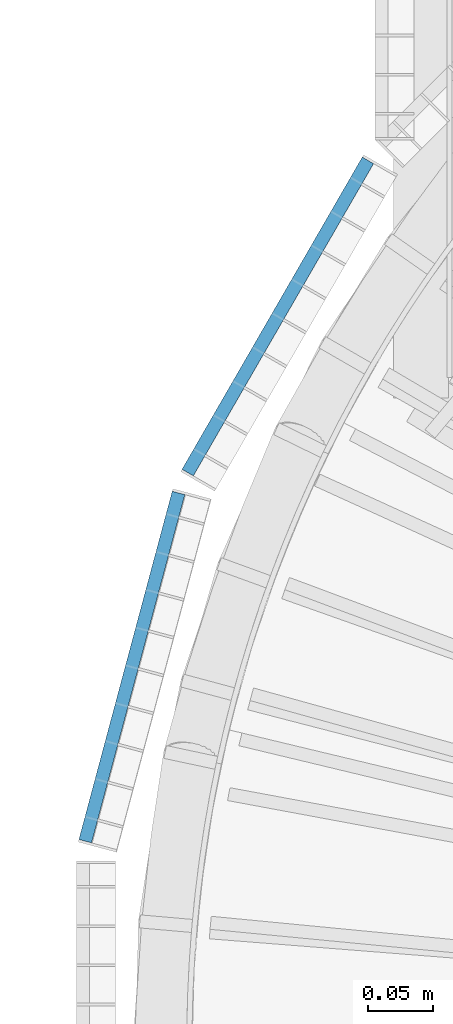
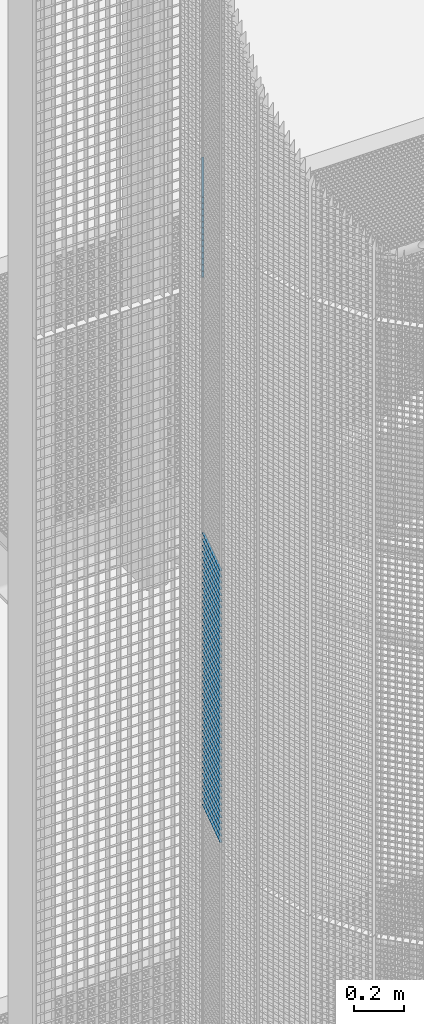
# One storey, part 197 of 1183: 59 beams, 2 elements without a shape of their own.
"""IFC2X3 building model written with IfcOpenShell, lengths in millimetres."""

from ifc_helpers import new_model, si_unit, frame, origin_with_axes, origin_2d_with_axis, place, context, subcontext, project, spatial, rectangle, extrude, material, type_object, element, aggregate, save


model = new_model("IFC2X3")

# Units and contexts
model_context = context("Model", 3, precision=1e-05, world=origin_with_axes())
body_context = subcontext(model_context, "Body", "Model", "MODEL_VIEW")
ifc_project = project(units=[si_unit("LENGTHUNIT", "METRE", prefix="MILLI"), si_unit("AREAUNIT", "SQUARE_METRE"), si_unit("VOLUMEUNIT", "CUBIC_METRE"), si_unit("MASSUNIT", "GRAM", prefix="KILO"), si_unit("TIMEUNIT", "SECOND"), si_unit("PLANEANGLEUNIT", "RADIAN"), si_unit("SOLIDANGLEUNIT", "STERADIAN"), si_unit("THERMODYNAMICTEMPERATUREUNIT", "DEGREE_CELSIUS"), si_unit("LUMINOUSINTENSITYUNIT", "LUMEN")], contexts=[model_context])

# Site, building, storey
site_placement = place(None, origin_with_axes())
site = spatial("IfcSite", under=ifc_project, at=site_placement, Name="Undefined", CompositionType="ELEMENT")
building_placement = place(site_placement, origin_with_axes())
building = spatial("IfcBuilding", under=site, at=building_placement, Name="Undefined", CompositionType="ELEMENT")
storey_placement = place(building_placement, origin_with_axes())
storey = spatial("IfcBuildingStorey", under=building, at=storey_placement, Name="Undefined", CompositionType="ELEMENT", Elevation=0.0)

# Assembly, beams
assembly_1_placement = place(storey_placement, origin_with_axes())
assembly_1 = element("IfcElementAssembly", 1, at=assembly_1_placement, inside=storey, Name="BORDURE", AssemblyPlace="NOTDEFINED", PredefinedType="NOTDEFINED")
ifc_material = material(Name="STEEL/S235JR")
beam_type = type_object("IfcBeamType", Name="PL2*10", PredefinedType="NOTDEFINED")
beam_1_placement = place(assembly_1_placement, frame((-1040.30888419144, 421.618038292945, 10350.0), z_axis=(-0.965925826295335, 0.258819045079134, 0.0), x_axis=(-0.258819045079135, -0.965925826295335, 0.0)))
beam_1 = element("IfcBeam", 2, at=beam_1_placement, type_object=beam_type, material=ifc_material, Name="ENTRETOISE", context=body_context, shape_type="SweptSolid", body=[
    extrude(rectangle(XDim=2.0, YDim=10.0, at=origin_2d_with_axis()), frame((275.999999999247, 9.09494701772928e-13, 1.53210777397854e-14), z_axis=(-1.0, 0.0, 0.0), x_axis=(0.0, -1.0, 0.0)), (0.0, 0.0, 1.0), 276.0),
])
beam_2_placement = place(assembly_1_placement, frame((-1040.30888419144, 421.618038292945, 10320.0), z_axis=(-0.965925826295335, 0.258819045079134, 0.0), x_axis=(-0.258819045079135, -0.965925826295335, 0.0)))
beam_2 = element("IfcBeam", 3, at=beam_2_placement, type_object=beam_type, material=ifc_material, Name="ENTRETOISE", context=body_context, shape_type="SweptSolid", body=[
    extrude(rectangle(XDim=2.0, YDim=10.0, at=origin_2d_with_axis()), frame((275.999999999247, 9.09494701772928e-13, 1.53210777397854e-14), z_axis=(-1.0, 0.0, 0.0), x_axis=(0.0, -1.0, 0.0)), (0.0, 0.0, 1.0), 276.0),
])
beam_3_placement = place(assembly_1_placement, frame((-1040.30888419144, 421.618038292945, 10290.0), z_axis=(-0.965925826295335, 0.258819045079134, 0.0), x_axis=(-0.258819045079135, -0.965925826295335, 0.0)))
beam_3 = element("IfcBeam", 4, at=beam_3_placement, type_object=beam_type, material=ifc_material, Name="ENTRETOISE", context=body_context, shape_type="SweptSolid", body=[
    extrude(rectangle(XDim=2.0, YDim=10.0, at=origin_2d_with_axis()), frame((275.999999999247, 9.09494701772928e-13, 1.53210777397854e-14), z_axis=(-1.0, 0.0, 0.0), x_axis=(0.0, -1.0, 0.0)), (0.0, 0.0, 1.0), 276.0),
])
beam_4_placement = place(assembly_1_placement, frame((-1040.30888419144, 421.618038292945, 10260.0), z_axis=(-0.965925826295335, 0.258819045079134, 0.0), x_axis=(-0.258819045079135, -0.965925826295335, 0.0)))
beam_4 = element("IfcBeam", 5, at=beam_4_placement, type_object=beam_type, material=ifc_material, Name="ENTRETOISE", context=body_context, shape_type="SweptSolid", body=[
    extrude(rectangle(XDim=2.0, YDim=10.0, at=origin_2d_with_axis()), frame((275.999999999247, 9.09494701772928e-13, 1.53210777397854e-14), z_axis=(-1.0, 0.0, 0.0), x_axis=(0.0, -1.0, 0.0)), (0.0, 0.0, 1.0), 276.0),
])
beam_5_placement = place(assembly_1_placement, frame((-1040.30888419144, 421.618038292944, 10230.0), z_axis=(-0.965925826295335, 0.258819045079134, 0.0), x_axis=(-0.258819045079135, -0.965925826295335, 0.0)))
beam_5 = element("IfcBeam", 6, at=beam_5_placement, type_object=beam_type, material=ifc_material, Name="ENTRETOISE", context=body_context, shape_type="SweptSolid", body=[
    extrude(rectangle(XDim=2.0, YDim=10.0, at=origin_2d_with_axis()), frame((275.999999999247, 9.09494701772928e-13, 1.53210777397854e-14), z_axis=(-1.0, 0.0, 0.0), x_axis=(0.0, -1.0, 0.0)), (0.0, 0.0, 1.0), 276.0),
])
beam_6_placement = place(assembly_1_placement, frame((-1040.30888419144, 421.618038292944, 10200.0), z_axis=(-0.965925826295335, 0.258819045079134, 0.0), x_axis=(-0.258819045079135, -0.965925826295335, 0.0)))
beam_6 = element("IfcBeam", 7, at=beam_6_placement, type_object=beam_type, material=ifc_material, Name="ENTRETOISE", context=body_context, shape_type="SweptSolid", body=[
    extrude(rectangle(XDim=2.0, YDim=10.0, at=origin_2d_with_axis()), frame((275.999999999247, 9.09494701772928e-13, 1.53210777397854e-14), z_axis=(-1.0, 0.0, 0.0), x_axis=(0.0, -1.0, 0.0)), (0.0, 0.0, 1.0), 276.0),
])
beam_7_placement = place(assembly_1_placement, frame((-1040.30888419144, 421.618038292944, 10170.0), z_axis=(-0.965925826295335, 0.258819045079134, 0.0), x_axis=(-0.258819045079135, -0.965925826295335, 0.0)))
beam_7 = element("IfcBeam", 8, at=beam_7_placement, type_object=beam_type, material=ifc_material, Name="ENTRETOISE", context=body_context, shape_type="SweptSolid", body=[
    extrude(rectangle(XDim=2.0, YDim=10.0, at=origin_2d_with_axis()), frame((275.999999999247, 9.09494701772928e-13, 1.53210777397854e-14), z_axis=(-1.0, 0.0, 0.0), x_axis=(0.0, -1.0, 0.0)), (0.0, 0.0, 1.0), 276.0),
])
beam_8_placement = place(assembly_1_placement, frame((-1040.30888419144, 421.618038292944, 10140.0), z_axis=(-0.965925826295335, 0.258819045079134, 0.0), x_axis=(-0.258819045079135, -0.965925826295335, 0.0)))
beam_8 = element("IfcBeam", 9, at=beam_8_placement, type_object=beam_type, material=ifc_material, Name="ENTRETOISE", context=body_context, shape_type="SweptSolid", body=[
    extrude(rectangle(XDim=2.0, YDim=10.0, at=origin_2d_with_axis()), frame((275.999999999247, 9.09494701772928e-13, 1.53210777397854e-14), z_axis=(-1.0, 0.0, 0.0), x_axis=(0.0, -1.0, 0.0)), (0.0, 0.0, 1.0), 276.0),
])
beam_9_placement = place(assembly_1_placement, frame((-1040.30888419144, 421.618038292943, 9720.0), z_axis=(-0.965925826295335, 0.258819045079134, 0.0), x_axis=(-0.258819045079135, -0.965925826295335, 0.0)))
beam_9 = element("IfcBeam", 10, at=beam_9_placement, type_object=beam_type, material=ifc_material, Name="ENTRETOISE", context=body_context, shape_type="SweptSolid", body=[
    extrude(rectangle(XDim=2.0, YDim=10.0, at=origin_2d_with_axis()), frame((275.999999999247, 9.09494701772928e-13, 1.53210777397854e-14), z_axis=(-1.0, 0.0, 0.0), x_axis=(0.0, -1.0, 0.0)), (0.0, 0.0, 1.0), 276.0),
])
beam_10_placement = place(assembly_1_placement, frame((-1040.30888419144, 421.618038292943, 9690.0), z_axis=(-0.965925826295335, 0.258819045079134, 0.0), x_axis=(-0.258819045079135, -0.965925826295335, 0.0)))
beam_10 = element("IfcBeam", 11, at=beam_10_placement, type_object=beam_type, material=ifc_material, Name="ENTRETOISE", context=body_context, shape_type="SweptSolid", body=[
    extrude(rectangle(XDim=2.0, YDim=10.0, at=origin_2d_with_axis()), frame((275.999999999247, 9.09494701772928e-13, 1.53210777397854e-14), z_axis=(-1.0, 0.0, 0.0), x_axis=(0.0, -1.0, 0.0)), (0.0, 0.0, 1.0), 276.0),
])
beam_11_placement = place(assembly_1_placement, frame((-1040.30888419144, 421.618038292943, 9750.0), z_axis=(-0.965925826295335, 0.258819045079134, 0.0), x_axis=(-0.258819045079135, -0.965925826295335, 0.0)))
beam_11 = element("IfcBeam", 12, at=beam_11_placement, type_object=beam_type, material=ifc_material, Name="ENTRETOISE", context=body_context, shape_type="SweptSolid", body=[
    extrude(rectangle(XDim=2.0, YDim=10.0, at=origin_2d_with_axis()), frame((275.999999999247, 9.09494701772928e-13, 1.53210777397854e-14), z_axis=(-1.0, 0.0, 0.0), x_axis=(0.0, -1.0, 0.0)), (0.0, 0.0, 1.0), 276.0),
])
beam_12_placement = place(assembly_1_placement, frame((-1040.30888419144, 421.618038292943, 9660.0), z_axis=(-0.965925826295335, 0.258819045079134, 0.0), x_axis=(-0.258819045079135, -0.965925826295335, 0.0)))
beam_12 = element("IfcBeam", 13, at=beam_12_placement, type_object=beam_type, material=ifc_material, Name="ENTRETOISE", context=body_context, shape_type="SweptSolid", body=[
    extrude(rectangle(XDim=2.0, YDim=10.0, at=origin_2d_with_axis()), frame((275.999999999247, 9.09494701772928e-13, 1.53210777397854e-14), z_axis=(-1.0, 0.0, 0.0), x_axis=(0.0, -1.0, 0.0)), (0.0, 0.0, 1.0), 276.0),
])
beam_13_placement = place(assembly_1_placement, frame((-1040.30888419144, 421.618038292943, 9630.0), z_axis=(-0.965925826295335, 0.258819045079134, 0.0), x_axis=(-0.258819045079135, -0.965925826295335, 0.0)))
beam_13 = element("IfcBeam", 14, at=beam_13_placement, type_object=beam_type, material=ifc_material, Name="ENTRETOISE", context=body_context, shape_type="SweptSolid", body=[
    extrude(rectangle(XDim=2.0, YDim=10.0, at=origin_2d_with_axis()), frame((275.999999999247, 9.09494701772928e-13, 1.53210777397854e-14), z_axis=(-1.0, 0.0, 0.0), x_axis=(0.0, -1.0, 0.0)), (0.0, 0.0, 1.0), 276.0),
])
beam_14_placement = place(assembly_1_placement, frame((-1040.30888419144, 421.618038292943, 9780.0), z_axis=(-0.965925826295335, 0.258819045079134, 0.0), x_axis=(-0.258819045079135, -0.965925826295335, 0.0)))
beam_14 = element("IfcBeam", 15, at=beam_14_placement, type_object=beam_type, material=ifc_material, Name="ENTRETOISE", context=body_context, shape_type="SweptSolid", body=[
    extrude(rectangle(XDim=2.0, YDim=10.0, at=origin_2d_with_axis()), frame((275.999999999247, 9.09494701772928e-13, 1.53210777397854e-14), z_axis=(-1.0, 0.0, 0.0), x_axis=(0.0, -1.0, 0.0)), (0.0, 0.0, 1.0), 276.0),
])
beam_15_placement = place(assembly_1_placement, frame((-1040.30888419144, 421.618038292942, 9600.0), z_axis=(-0.965925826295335, 0.258819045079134, 0.0), x_axis=(-0.258819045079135, -0.965925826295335, 0.0)))
beam_15 = element("IfcBeam", 16, at=beam_15_placement, type_object=beam_type, material=ifc_material, Name="ENTRETOISE", context=body_context, shape_type="SweptSolid", body=[
    extrude(rectangle(XDim=2.0, YDim=10.0, at=origin_2d_with_axis()), frame((275.999999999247, 9.09494701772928e-13, 1.53210777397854e-14), z_axis=(-1.0, 0.0, 0.0), x_axis=(0.0, -1.0, 0.0)), (0.0, 0.0, 1.0), 276.0),
])
beam_16_placement = place(assembly_1_placement, frame((-1040.30888419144, 421.618038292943, 9810.0), z_axis=(-0.965925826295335, 0.258819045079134, 0.0), x_axis=(-0.258819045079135, -0.965925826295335, 0.0)))
beam_16 = element("IfcBeam", 17, at=beam_16_placement, type_object=beam_type, material=ifc_material, Name="ENTRETOISE", context=body_context, shape_type="SweptSolid", body=[
    extrude(rectangle(XDim=2.0, YDim=10.0, at=origin_2d_with_axis()), frame((275.999999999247, 9.09494701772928e-13, 1.53210777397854e-14), z_axis=(-1.0, 0.0, 0.0), x_axis=(0.0, -1.0, 0.0)), (0.0, 0.0, 1.0), 276.0),
])
beam_17_placement = place(assembly_1_placement, frame((-1040.30888419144, 421.618038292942, 9570.0), z_axis=(-0.965925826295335, 0.258819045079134, 0.0), x_axis=(-0.258819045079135, -0.965925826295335, 0.0)))
beam_17 = element("IfcBeam", 18, at=beam_17_placement, type_object=beam_type, material=ifc_material, Name="ENTRETOISE", context=body_context, shape_type="SweptSolid", body=[
    extrude(rectangle(XDim=2.0, YDim=10.0, at=origin_2d_with_axis()), frame((275.999999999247, 9.09494701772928e-13, 1.53210777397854e-14), z_axis=(-1.0, 0.0, 0.0), x_axis=(0.0, -1.0, 0.0)), (0.0, 0.0, 1.0), 276.0),
])
beam_18_placement = place(assembly_1_placement, frame((-1040.30888419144, 421.618038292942, 9540.0), z_axis=(-0.965925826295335, 0.258819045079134, 0.0), x_axis=(-0.258819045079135, -0.965925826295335, 0.0)))
beam_18 = element("IfcBeam", 19, at=beam_18_placement, type_object=beam_type, material=ifc_material, Name="ENTRETOISE", context=body_context, shape_type="SweptSolid", body=[
    extrude(rectangle(XDim=2.0, YDim=10.0, at=origin_2d_with_axis()), frame((275.999999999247, 9.09494701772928e-13, 1.53210777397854e-14), z_axis=(-1.0, 0.0, 0.0), x_axis=(0.0, -1.0, 0.0)), (0.0, 0.0, 1.0), 276.0),
])
beam_19_placement = place(assembly_1_placement, frame((-1040.30888419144, 421.618038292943, 9840.0), z_axis=(-0.965925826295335, 0.258819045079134, 0.0), x_axis=(-0.258819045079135, -0.965925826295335, 0.0)))
beam_19 = element("IfcBeam", 20, at=beam_19_placement, type_object=beam_type, material=ifc_material, Name="ENTRETOISE", context=body_context, shape_type="SweptSolid", body=[
    extrude(rectangle(XDim=2.0, YDim=10.0, at=origin_2d_with_axis()), frame((275.999999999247, 9.09494701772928e-13, 1.53210777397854e-14), z_axis=(-1.0, 0.0, 0.0), x_axis=(0.0, -1.0, 0.0)), (0.0, 0.0, 1.0), 276.0),
])
beam_20_placement = place(assembly_1_placement, frame((-1040.30888419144, 421.618038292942, 9510.0), z_axis=(-0.965925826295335, 0.258819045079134, 0.0), x_axis=(-0.258819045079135, -0.965925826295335, 0.0)))
beam_20 = element("IfcBeam", 21, at=beam_20_placement, type_object=beam_type, material=ifc_material, Name="ENTRETOISE", context=body_context, shape_type="SweptSolid", body=[
    extrude(rectangle(XDim=2.0, YDim=10.0, at=origin_2d_with_axis()), frame((275.999999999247, 9.09494701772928e-13, 1.53210777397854e-14), z_axis=(-1.0, 0.0, 0.0), x_axis=(0.0, -1.0, 0.0)), (0.0, 0.0, 1.0), 276.0),
])
beam_21_placement = place(assembly_1_placement, frame((-1040.30888419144, 421.618038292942, 9480.0), z_axis=(-0.965925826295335, 0.258819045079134, 0.0), x_axis=(-0.258819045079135, -0.965925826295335, 0.0)))
beam_21 = element("IfcBeam", 22, at=beam_21_placement, type_object=beam_type, material=ifc_material, Name="ENTRETOISE", context=body_context, shape_type="SweptSolid", body=[
    extrude(rectangle(XDim=2.0, YDim=10.0, at=origin_2d_with_axis()), frame((275.999999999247, 9.09494701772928e-13, 1.53210777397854e-14), z_axis=(-1.0, 0.0, 0.0), x_axis=(0.0, -1.0, 0.0)), (0.0, 0.0, 1.0), 276.0),
])
beam_22_placement = place(assembly_1_placement, frame((-1040.30888419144, 421.618038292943, 9870.0), z_axis=(-0.965925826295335, 0.258819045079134, 0.0), x_axis=(-0.258819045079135, -0.965925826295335, 0.0)))
beam_22 = element("IfcBeam", 23, at=beam_22_placement, type_object=beam_type, material=ifc_material, Name="ENTRETOISE", context=body_context, shape_type="SweptSolid", body=[
    extrude(rectangle(XDim=2.0, YDim=10.0, at=origin_2d_with_axis()), frame((275.999999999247, 9.09494701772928e-13, 1.53210777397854e-14), z_axis=(-1.0, 0.0, 0.0), x_axis=(0.0, -1.0, 0.0)), (0.0, 0.0, 1.0), 276.0),
])
beam_23_placement = place(assembly_1_placement, frame((-1040.30888419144, 421.618038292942, 9450.0), z_axis=(-0.965925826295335, 0.258819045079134, 0.0), x_axis=(-0.258819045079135, -0.965925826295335, 0.0)))
beam_23 = element("IfcBeam", 24, at=beam_23_placement, type_object=beam_type, material=ifc_material, Name="ENTRETOISE", context=body_context, shape_type="SweptSolid", body=[
    extrude(rectangle(XDim=2.0, YDim=10.0, at=origin_2d_with_axis()), frame((275.999999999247, 9.09494701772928e-13, 1.53210777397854e-14), z_axis=(-1.0, 0.0, 0.0), x_axis=(0.0, -1.0, 0.0)), (0.0, 0.0, 1.0), 276.0),
])
beam_24_placement = place(assembly_1_placement, frame((-1040.30888419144, 421.618038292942, 9420.0), z_axis=(-0.965925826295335, 0.258819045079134, 0.0), x_axis=(-0.258819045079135, -0.965925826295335, 0.0)))
beam_24 = element("IfcBeam", 25, at=beam_24_placement, type_object=beam_type, material=ifc_material, Name="ENTRETOISE", context=body_context, shape_type="SweptSolid", body=[
    extrude(rectangle(XDim=2.0, YDim=10.0, at=origin_2d_with_axis()), frame((275.999999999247, 9.09494701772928e-13, 1.53210777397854e-14), z_axis=(-1.0, 0.0, 0.0), x_axis=(0.0, -1.0, 0.0)), (0.0, 0.0, 1.0), 276.0),
])
beam_25_placement = place(assembly_1_placement, frame((-1040.30888419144, 421.618038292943, 9900.0), z_axis=(-0.965925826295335, 0.258819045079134, 0.0), x_axis=(-0.258819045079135, -0.965925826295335, 0.0)))
beam_25 = element("IfcBeam", 26, at=beam_25_placement, type_object=beam_type, material=ifc_material, Name="ENTRETOISE", context=body_context, shape_type="SweptSolid", body=[
    extrude(rectangle(XDim=2.0, YDim=10.0, at=origin_2d_with_axis()), frame((275.999999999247, 9.09494701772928e-13, 1.53210777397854e-14), z_axis=(-1.0, 0.0, 0.0), x_axis=(0.0, -1.0, 0.0)), (0.0, 0.0, 1.0), 276.0),
])
beam_26_placement = place(assembly_1_placement, frame((-1040.30888419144, 421.618038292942, 9390.0), z_axis=(-0.965925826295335, 0.258819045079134, 0.0), x_axis=(-0.258819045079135, -0.965925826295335, 0.0)))
beam_26 = element("IfcBeam", 27, at=beam_26_placement, type_object=beam_type, material=ifc_material, Name="ENTRETOISE", context=body_context, shape_type="SweptSolid", body=[
    extrude(rectangle(XDim=2.0, YDim=10.0, at=origin_2d_with_axis()), frame((275.999999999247, 9.09494701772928e-13, 1.53210777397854e-14), z_axis=(-1.0, 0.0, 0.0), x_axis=(0.0, -1.0, 0.0)), (0.0, 0.0, 1.0), 276.0),
])
beam_27_placement = place(assembly_1_placement, frame((-1040.30888419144, 421.618038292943, 9930.0), z_axis=(-0.965925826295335, 0.258819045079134, 0.0), x_axis=(-0.258819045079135, -0.965925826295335, 0.0)))
beam_27 = element("IfcBeam", 28, at=beam_27_placement, type_object=beam_type, material=ifc_material, Name="ENTRETOISE", context=body_context, shape_type="SweptSolid", body=[
    extrude(rectangle(XDim=2.0, YDim=10.0, at=origin_2d_with_axis()), frame((275.999999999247, 9.09494701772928e-13, 1.53210777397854e-14), z_axis=(-1.0, 0.0, 0.0), x_axis=(0.0, -1.0, 0.0)), (0.0, 0.0, 1.0), 276.0),
])
beam_28_placement = place(assembly_1_placement, frame((-1040.30888419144, 421.618038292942, 9360.0), z_axis=(-0.965925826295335, 0.258819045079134, 0.0), x_axis=(-0.258819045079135, -0.965925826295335, 0.0)))
beam_28 = element("IfcBeam", 29, at=beam_28_placement, type_object=beam_type, material=ifc_material, Name="ENTRETOISE", context=body_context, shape_type="SweptSolid", body=[
    extrude(rectangle(XDim=2.0, YDim=10.0, at=origin_2d_with_axis()), frame((275.999999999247, 9.09494701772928e-13, 1.53210777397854e-14), z_axis=(-1.0, 0.0, 0.0), x_axis=(0.0, -1.0, 0.0)), (0.0, 0.0, 1.0), 276.0),
])
beam_29_placement = place(assembly_1_placement, frame((-1040.30888419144, 421.618038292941, 9330.0), z_axis=(-0.965925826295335, 0.258819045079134, 0.0), x_axis=(-0.258819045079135, -0.965925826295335, 0.0)))
beam_29 = element("IfcBeam", 30, at=beam_29_placement, type_object=beam_type, material=ifc_material, Name="ENTRETOISE", context=body_context, shape_type="SweptSolid", body=[
    extrude(rectangle(XDim=2.0, YDim=10.0, at=origin_2d_with_axis()), frame((275.999999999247, 9.09494701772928e-13, 1.53210777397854e-14), z_axis=(-1.0, 0.0, 0.0), x_axis=(0.0, -1.0, 0.0)), (0.0, 0.0, 1.0), 276.0),
])
beam_30_placement = place(assembly_1_placement, frame((-1040.30888419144, 421.618038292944, 9960.0), z_axis=(-0.965925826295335, 0.258819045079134, 0.0), x_axis=(-0.258819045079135, -0.965925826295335, 0.0)))
beam_30 = element("IfcBeam", 31, at=beam_30_placement, type_object=beam_type, material=ifc_material, Name="ENTRETOISE", context=body_context, shape_type="SweptSolid", body=[
    extrude(rectangle(XDim=2.0, YDim=10.0, at=origin_2d_with_axis()), frame((275.999999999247, 9.09494701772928e-13, 1.53210777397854e-14), z_axis=(-1.0, 0.0, 0.0), x_axis=(0.0, -1.0, 0.0)), (0.0, 0.0, 1.0), 276.0),
])
beam_31_placement = place(assembly_1_placement, frame((-1040.30888419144, 421.618038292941, 9300.0), z_axis=(-0.965925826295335, 0.258819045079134, 0.0), x_axis=(-0.258819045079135, -0.965925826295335, 0.0)))
beam_31 = element("IfcBeam", 32, at=beam_31_placement, type_object=beam_type, material=ifc_material, Name="ENTRETOISE", context=body_context, shape_type="SweptSolid", body=[
    extrude(rectangle(XDim=2.0, YDim=10.0, at=origin_2d_with_axis()), frame((275.999999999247, 9.09494701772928e-13, 1.53210777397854e-14), z_axis=(-1.0, 0.0, 0.0), x_axis=(0.0, -1.0, 0.0)), (0.0, 0.0, 1.0), 276.0),
])
beam_32_placement = place(assembly_1_placement, frame((-1040.30888419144, 421.618038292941, 9270.0), z_axis=(-0.965925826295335, 0.258819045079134, 0.0), x_axis=(-0.258819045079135, -0.965925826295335, 0.0)))
beam_32 = element("IfcBeam", 33, at=beam_32_placement, type_object=beam_type, material=ifc_material, Name="ENTRETOISE", context=body_context, shape_type="SweptSolid", body=[
    extrude(rectangle(XDim=2.0, YDim=10.0, at=origin_2d_with_axis()), frame((275.999999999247, 9.09494701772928e-13, 1.53210777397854e-14), z_axis=(-1.0, 0.0, 0.0), x_axis=(0.0, -1.0, 0.0)), (0.0, 0.0, 1.0), 276.0),
])
beam_33_placement = place(assembly_1_placement, frame((-1040.30888419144, 421.618038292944, 9990.0), z_axis=(-0.965925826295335, 0.258819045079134, 0.0), x_axis=(-0.258819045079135, -0.965925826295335, 0.0)))
beam_33 = element("IfcBeam", 34, at=beam_33_placement, type_object=beam_type, material=ifc_material, Name="ENTRETOISE", context=body_context, shape_type="SweptSolid", body=[
    extrude(rectangle(XDim=2.0, YDim=10.0, at=origin_2d_with_axis()), frame((275.999999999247, 9.09494701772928e-13, 1.53210777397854e-14), z_axis=(-1.0, 0.0, 0.0), x_axis=(0.0, -1.0, 0.0)), (0.0, 0.0, 1.0), 276.0),
])
beam_34_placement = place(assembly_1_placement, frame((-1040.30888419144, 421.618038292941, 9240.0), z_axis=(-0.965925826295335, 0.258819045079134, 0.0), x_axis=(-0.258819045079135, -0.965925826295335, 0.0)))
beam_34 = element("IfcBeam", 35, at=beam_34_placement, type_object=beam_type, material=ifc_material, Name="ENTRETOISE", context=body_context, shape_type="SweptSolid", body=[
    extrude(rectangle(XDim=2.0, YDim=10.0, at=origin_2d_with_axis()), frame((275.999999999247, 9.09494701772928e-13, 1.53210777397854e-14), z_axis=(-1.0, 0.0, 0.0), x_axis=(0.0, -1.0, 0.0)), (0.0, 0.0, 1.0), 276.0),
])
beam_35_placement = place(assembly_1_placement, frame((-1040.30888419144, 421.618038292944, 10020.0), z_axis=(-0.965925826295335, 0.258819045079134, 0.0), x_axis=(-0.258819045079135, -0.965925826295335, 0.0)))
beam_35 = element("IfcBeam", 36, at=beam_35_placement, type_object=beam_type, material=ifc_material, Name="ENTRETOISE", context=body_context, shape_type="SweptSolid", body=[
    extrude(rectangle(XDim=2.0, YDim=10.0, at=origin_2d_with_axis()), frame((275.999999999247, 9.09494701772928e-13, 1.53210777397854e-14), z_axis=(-1.0, 0.0, 0.0), x_axis=(0.0, -1.0, 0.0)), (0.0, 0.0, 1.0), 276.0),
])
beam_36_placement = place(assembly_1_placement, frame((-1040.30888419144, 421.618038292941, 9210.0), z_axis=(-0.965925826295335, 0.258819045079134, 0.0), x_axis=(-0.258819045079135, -0.965925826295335, 0.0)))
beam_36 = element("IfcBeam", 37, at=beam_36_placement, type_object=beam_type, material=ifc_material, Name="ENTRETOISE", context=body_context, shape_type="SweptSolid", body=[
    extrude(rectangle(XDim=2.0, YDim=10.0, at=origin_2d_with_axis()), frame((275.999999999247, 9.09494701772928e-13, 1.53210777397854e-14), z_axis=(-1.0, 0.0, 0.0), x_axis=(0.0, -1.0, 0.0)), (0.0, 0.0, 1.0), 276.0),
])
beam_37_placement = place(assembly_1_placement, frame((-1040.30888419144, 421.618038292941, 9180.0), z_axis=(-0.965925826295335, 0.258819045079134, 0.0), x_axis=(-0.258819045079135, -0.965925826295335, 0.0)))
beam_37 = element("IfcBeam", 38, at=beam_37_placement, type_object=beam_type, material=ifc_material, Name="ENTRETOISE", context=body_context, shape_type="SweptSolid", body=[
    extrude(rectangle(XDim=2.0, YDim=10.0, at=origin_2d_with_axis()), frame((275.999999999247, 9.09494701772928e-13, 1.53210777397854e-14), z_axis=(-1.0, 0.0, 0.0), x_axis=(0.0, -1.0, 0.0)), (0.0, 0.0, 1.0), 276.0),
])
beam_38_placement = place(assembly_1_placement, frame((-1040.30888419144, 421.618038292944, 10050.0), z_axis=(-0.965925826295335, 0.258819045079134, 0.0), x_axis=(-0.258819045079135, -0.965925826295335, 0.0)))
beam_38 = element("IfcBeam", 39, at=beam_38_placement, type_object=beam_type, material=ifc_material, Name="ENTRETOISE", context=body_context, shape_type="SweptSolid", body=[
    extrude(rectangle(XDim=2.0, YDim=10.0, at=origin_2d_with_axis()), frame((275.999999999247, 9.09494701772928e-13, 1.53210777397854e-14), z_axis=(-1.0, 0.0, 0.0), x_axis=(0.0, -1.0, 0.0)), (0.0, 0.0, 1.0), 276.0),
])
beam_39_placement = place(assembly_1_placement, frame((-1040.30888419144, 421.618038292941, 9150.0), z_axis=(-0.965925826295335, 0.258819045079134, 0.0), x_axis=(-0.258819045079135, -0.965925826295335, 0.0)))
beam_39 = element("IfcBeam", 40, at=beam_39_placement, type_object=beam_type, material=ifc_material, Name="ENTRETOISE", context=body_context, shape_type="SweptSolid", body=[
    extrude(rectangle(XDim=2.0, YDim=10.0, at=origin_2d_with_axis()), frame((275.999999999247, 9.09494701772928e-13, 1.53210777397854e-14), z_axis=(-1.0, 0.0, 0.0), x_axis=(0.0, -1.0, 0.0)), (0.0, 0.0, 1.0), 276.0),
])
beam_40_placement = place(assembly_1_placement, frame((-1040.30888419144, 421.618038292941, 9120.0), z_axis=(-0.965925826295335, 0.258819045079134, 0.0), x_axis=(-0.258819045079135, -0.965925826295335, 0.0)))
beam_40 = element("IfcBeam", 41, at=beam_40_placement, type_object=beam_type, material=ifc_material, Name="ENTRETOISE", context=body_context, shape_type="SweptSolid", body=[
    extrude(rectangle(XDim=2.0, YDim=10.0, at=origin_2d_with_axis()), frame((275.999999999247, 9.09494701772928e-13, 1.53210777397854e-14), z_axis=(-1.0, 0.0, 0.0), x_axis=(0.0, -1.0, 0.0)), (0.0, 0.0, 1.0), 276.0),
])
beam_41_placement = place(assembly_1_placement, frame((-1040.30888419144, 421.618038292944, 10080.0), z_axis=(-0.965925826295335, 0.258819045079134, 0.0), x_axis=(-0.258819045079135, -0.965925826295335, 0.0)))
beam_41 = element("IfcBeam", 42, at=beam_41_placement, type_object=beam_type, material=ifc_material, Name="ENTRETOISE", context=body_context, shape_type="SweptSolid", body=[
    extrude(rectangle(XDim=2.0, YDim=10.0, at=origin_2d_with_axis()), frame((275.999999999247, 9.09494701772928e-13, 1.53210777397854e-14), z_axis=(-1.0, 0.0, 0.0), x_axis=(0.0, -1.0, 0.0)), (0.0, 0.0, 1.0), 276.0),
])
beam_42_placement = place(assembly_1_placement, frame((-1040.30888419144, 421.618038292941, 9090.0), z_axis=(-0.965925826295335, 0.258819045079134, 0.0), x_axis=(-0.258819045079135, -0.965925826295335, 0.0)))
beam_42 = element("IfcBeam", 43, at=beam_42_placement, type_object=beam_type, material=ifc_material, Name="ENTRETOISE", context=body_context, shape_type="SweptSolid", body=[
    extrude(rectangle(XDim=2.0, YDim=10.0, at=origin_2d_with_axis()), frame((275.999999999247, 9.09494701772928e-13, 1.53210777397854e-14), z_axis=(-1.0, 0.0, 0.0), x_axis=(0.0, -1.0, 0.0)), (0.0, 0.0, 1.0), 276.0),
])
beam_43_placement = place(assembly_1_placement, frame((-1040.30888419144, 421.618038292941, 9060.0), z_axis=(-0.965925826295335, 0.258819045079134, 0.0), x_axis=(-0.258819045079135, -0.965925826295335, 0.0)))
beam_43 = element("IfcBeam", 44, at=beam_43_placement, type_object=beam_type, material=ifc_material, Name="ENTRETOISE", context=body_context, shape_type="SweptSolid", body=[
    extrude(rectangle(XDim=2.0, YDim=10.0, at=origin_2d_with_axis()), frame((275.999999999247, 9.09494701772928e-13, 1.53210777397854e-14), z_axis=(-1.0, 0.0, 0.0), x_axis=(0.0, -1.0, 0.0)), (0.0, 0.0, 1.0), 276.0),
])
beam_44_placement = place(assembly_1_placement, frame((-1040.30888419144, 421.618038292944, 10110.0), z_axis=(-0.965925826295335, 0.258819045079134, 0.0), x_axis=(-0.258819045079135, -0.965925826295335, 0.0)))
beam_44 = element("IfcBeam", 45, at=beam_44_placement, type_object=beam_type, material=ifc_material, Name="ENTRETOISE", context=body_context, shape_type="SweptSolid", body=[
    extrude(rectangle(XDim=2.0, YDim=10.0, at=origin_2d_with_axis()), frame((275.999999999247, 9.09494701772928e-13, 1.53210777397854e-14), z_axis=(-1.0, 0.0, 0.0), x_axis=(0.0, -1.0, 0.0)), (0.0, 0.0, 1.0), 276.0),
])
beam_45_placement = place(assembly_1_placement, frame((-1040.30888419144, 421.618038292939, 9030.0), z_axis=(-0.965925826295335, 0.258819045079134, 0.0), x_axis=(-0.258819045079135, -0.965925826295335, 0.0)))
beam_45 = element("IfcBeam", 46, at=beam_45_placement, type_object=beam_type, material=ifc_material, Name="ENTRETOISE", context=body_context, shape_type="SweptSolid", body=[
    extrude(rectangle(XDim=2.0, YDim=10.0, at=origin_2d_with_axis()), frame((275.999999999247, 9.09494701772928e-13, 1.53210777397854e-14), z_axis=(-1.0, 0.0, 0.0), x_axis=(0.0, -1.0, 0.0)), (0.0, 0.0, 1.0), 276.0),
])
aggregate(assembly_1, [beam_1, beam_2, beam_3, beam_4, beam_5, beam_6, beam_7, beam_8, beam_9, beam_10, beam_11, beam_12, beam_13, beam_14, beam_15, beam_16, beam_17, beam_18, beam_19, beam_20, beam_21, beam_22, beam_23, beam_24, beam_25, beam_26, beam_27, beam_28, beam_29, beam_30, beam_31, beam_32, beam_33, beam_34, beam_35, beam_36, beam_37, beam_38, beam_39, beam_40, beam_41, beam_42, beam_43, beam_44, beam_45])

assembly_2_placement = place(storey_placement, origin_with_axes())
assembly_2 = element("IfcElementAssembly", 47, at=assembly_2_placement, inside=storey, Name="BORDURE", AssemblyPlace="NOTDEFINED", PredefinedType="NOTDEFINED")
beam_46_placement = place(assembly_2_placement, frame((-895.303964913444, 676.248044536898, 11970.0), z_axis=(-0.866025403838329, 0.499999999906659, 0.0), x_axis=(-0.49999999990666, -0.866025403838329, 0.0)))
beam_46 = element("IfcBeam", 48, at=beam_46_placement, type_object=beam_type, material=ifc_material, Name="ENTRETOISE", context=body_context, shape_type="SweptSolid", body=[
    extrude(rectangle(XDim=2.0, YDim=10.0, at=origin_2d_with_axis()), frame((275.999999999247, 9.09494701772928e-13, 1.53210777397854e-14), z_axis=(-1.0, 0.0, 0.0), x_axis=(0.0, -1.0, 0.0)), (0.0, 0.0, 1.0), 276.0),
])
beam_47_placement = place(assembly_2_placement, frame((-895.303964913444, 676.248044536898, 11940.0), z_axis=(-0.866025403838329, 0.499999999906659, 0.0), x_axis=(-0.49999999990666, -0.866025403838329, 0.0)))
beam_47 = element("IfcBeam", 49, at=beam_47_placement, type_object=beam_type, material=ifc_material, Name="ENTRETOISE", context=body_context, shape_type="SweptSolid", body=[
    extrude(rectangle(XDim=2.0, YDim=10.0, at=origin_2d_with_axis()), frame((275.999999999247, 9.09494701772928e-13, 1.53210777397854e-14), z_axis=(-1.0, 0.0, 0.0), x_axis=(0.0, -1.0, 0.0)), (0.0, 0.0, 1.0), 276.0),
])
beam_48_placement = place(assembly_2_placement, frame((-895.303964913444, 676.248044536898, 11910.0), z_axis=(-0.866025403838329, 0.499999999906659, 0.0), x_axis=(-0.49999999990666, -0.866025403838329, 0.0)))
beam_48 = element("IfcBeam", 50, at=beam_48_placement, type_object=beam_type, material=ifc_material, Name="ENTRETOISE", context=body_context, shape_type="SweptSolid", body=[
    extrude(rectangle(XDim=2.0, YDim=10.0, at=origin_2d_with_axis()), frame((275.999999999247, 9.09494701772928e-13, 1.53210777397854e-14), z_axis=(-1.0, 0.0, 0.0), x_axis=(0.0, -1.0, 0.0)), (0.0, 0.0, 1.0), 276.0),
])
beam_49_placement = place(assembly_2_placement, frame((-895.303964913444, 676.248044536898, 11880.0), z_axis=(-0.866025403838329, 0.499999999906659, 0.0), x_axis=(-0.49999999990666, -0.866025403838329, 0.0)))
beam_49 = element("IfcBeam", 51, at=beam_49_placement, type_object=beam_type, material=ifc_material, Name="ENTRETOISE", context=body_context, shape_type="SweptSolid", body=[
    extrude(rectangle(XDim=2.0, YDim=10.0, at=origin_2d_with_axis()), frame((275.999999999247, 9.09494701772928e-13, 1.53210777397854e-14), z_axis=(-1.0, 0.0, 0.0), x_axis=(0.0, -1.0, 0.0)), (0.0, 0.0, 1.0), 276.0),
])
beam_50_placement = place(assembly_2_placement, frame((-895.303964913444, 676.248044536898, 11850.0), z_axis=(-0.866025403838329, 0.499999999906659, 0.0), x_axis=(-0.49999999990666, -0.866025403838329, 0.0)))
beam_50 = element("IfcBeam", 52, at=beam_50_placement, type_object=beam_type, material=ifc_material, Name="ENTRETOISE", context=body_context, shape_type="SweptSolid", body=[
    extrude(rectangle(XDim=2.0, YDim=10.0, at=origin_2d_with_axis()), frame((275.999999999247, 9.09494701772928e-13, 1.53210777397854e-14), z_axis=(-1.0, 0.0, 0.0), x_axis=(0.0, -1.0, 0.0)), (0.0, 0.0, 1.0), 276.0),
])
beam_51_placement = place(assembly_2_placement, frame((-895.303964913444, 676.248044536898, 11820.0), z_axis=(-0.866025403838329, 0.499999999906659, 0.0), x_axis=(-0.49999999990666, -0.866025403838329, 0.0)))
beam_51 = element("IfcBeam", 53, at=beam_51_placement, type_object=beam_type, material=ifc_material, Name="ENTRETOISE", context=body_context, shape_type="SweptSolid", body=[
    extrude(rectangle(XDim=2.0, YDim=10.0, at=origin_2d_with_axis()), frame((275.999999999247, 9.09494701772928e-13, 1.53210777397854e-14), z_axis=(-1.0, 0.0, 0.0), x_axis=(0.0, -1.0, 0.0)), (0.0, 0.0, 1.0), 276.0),
])
beam_52_placement = place(assembly_2_placement, frame((-895.303964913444, 676.248044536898, 11790.0), z_axis=(-0.866025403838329, 0.499999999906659, 0.0), x_axis=(-0.49999999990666, -0.866025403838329, 0.0)))
beam_52 = element("IfcBeam", 54, at=beam_52_placement, type_object=beam_type, material=ifc_material, Name="ENTRETOISE", context=body_context, shape_type="SweptSolid", body=[
    extrude(rectangle(XDim=2.0, YDim=10.0, at=origin_2d_with_axis()), frame((275.999999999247, 9.09494701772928e-13, 1.53210777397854e-14), z_axis=(-1.0, 0.0, 0.0), x_axis=(0.0, -1.0, 0.0)), (0.0, 0.0, 1.0), 276.0),
])
beam_53_placement = place(assembly_2_placement, frame((-895.303964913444, 676.248044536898, 11760.0), z_axis=(-0.866025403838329, 0.499999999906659, 0.0), x_axis=(-0.49999999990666, -0.866025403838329, 0.0)))
beam_53 = element("IfcBeam", 55, at=beam_53_placement, type_object=beam_type, material=ifc_material, Name="ENTRETOISE", context=body_context, shape_type="SweptSolid", body=[
    extrude(rectangle(XDim=2.0, YDim=10.0, at=origin_2d_with_axis()), frame((275.999999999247, 9.09494701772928e-13, 1.53210777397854e-14), z_axis=(-1.0, 0.0, 0.0), x_axis=(0.0, -1.0, 0.0)), (0.0, 0.0, 1.0), 276.0),
])
beam_54_placement = place(assembly_2_placement, frame((-895.303964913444, 676.248044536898, 11730.0), z_axis=(-0.866025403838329, 0.499999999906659, 0.0), x_axis=(-0.49999999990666, -0.866025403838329, 0.0)))
beam_54 = element("IfcBeam", 56, at=beam_54_placement, type_object=beam_type, material=ifc_material, Name="ENTRETOISE", context=body_context, shape_type="SweptSolid", body=[
    extrude(rectangle(XDim=2.0, YDim=10.0, at=origin_2d_with_axis()), frame((275.999999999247, 9.09494701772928e-13, 1.53210777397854e-14), z_axis=(-1.0, 0.0, 0.0), x_axis=(0.0, -1.0, 0.0)), (0.0, 0.0, 1.0), 276.0),
])
beam_55_placement = place(assembly_2_placement, frame((-895.303964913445, 676.248044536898, 11700.0), z_axis=(-0.866025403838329, 0.499999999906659, 0.0), x_axis=(-0.49999999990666, -0.866025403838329, 0.0)))
beam_55 = element("IfcBeam", 57, at=beam_55_placement, type_object=beam_type, material=ifc_material, Name="ENTRETOISE", context=body_context, shape_type="SweptSolid", body=[
    extrude(rectangle(XDim=2.0, YDim=10.0, at=origin_2d_with_axis()), frame((275.999999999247, 9.09494701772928e-13, 1.53210777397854e-14), z_axis=(-1.0, 0.0, 0.0), x_axis=(0.0, -1.0, 0.0)), (0.0, 0.0, 1.0), 276.0),
])
beam_56_placement = place(assembly_2_placement, frame((-895.303964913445, 676.248044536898, 11670.0), z_axis=(-0.866025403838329, 0.499999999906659, 0.0), x_axis=(-0.49999999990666, -0.866025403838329, 0.0)))
beam_56 = element("IfcBeam", 58, at=beam_56_placement, type_object=beam_type, material=ifc_material, Name="ENTRETOISE", context=body_context, shape_type="SweptSolid", body=[
    extrude(rectangle(XDim=2.0, YDim=10.0, at=origin_2d_with_axis()), frame((275.999999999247, 9.09494701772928e-13, 1.53210777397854e-14), z_axis=(-1.0, 0.0, 0.0), x_axis=(0.0, -1.0, 0.0)), (0.0, 0.0, 1.0), 276.0),
])
beam_57_placement = place(assembly_2_placement, frame((-895.303964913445, 676.248044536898, 11640.0), z_axis=(-0.866025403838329, 0.499999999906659, 0.0), x_axis=(-0.49999999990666, -0.866025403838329, 0.0)))
beam_57 = element("IfcBeam", 59, at=beam_57_placement, type_object=beam_type, material=ifc_material, Name="ENTRETOISE", context=body_context, shape_type="SweptSolid", body=[
    extrude(rectangle(XDim=2.0, YDim=10.0, at=origin_2d_with_axis()), frame((275.999999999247, 9.09494701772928e-13, 1.53210777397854e-14), z_axis=(-1.0, 0.0, 0.0), x_axis=(0.0, -1.0, 0.0)), (0.0, 0.0, 1.0), 276.0),
])
beam_58_placement = place(assembly_2_placement, frame((-895.303964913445, 676.248044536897, 11610.0), z_axis=(-0.866025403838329, 0.499999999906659, 0.0), x_axis=(-0.49999999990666, -0.866025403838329, 0.0)))
beam_58 = element("IfcBeam", 60, at=beam_58_placement, type_object=beam_type, material=ifc_material, Name="ENTRETOISE", context=body_context, shape_type="SweptSolid", body=[
    extrude(rectangle(XDim=2.0, YDim=10.0, at=origin_2d_with_axis()), frame((275.999999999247, 9.09494701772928e-13, 1.53210777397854e-14), z_axis=(-1.0, 0.0, 0.0), x_axis=(0.0, -1.0, 0.0)), (0.0, 0.0, 1.0), 276.0),
])
beam_59_placement = place(assembly_2_placement, frame((-895.303964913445, 676.248044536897, 11580.0), z_axis=(-0.866025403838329, 0.499999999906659, 0.0), x_axis=(-0.49999999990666, -0.866025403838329, 0.0)))
beam_59 = element("IfcBeam", 61, at=beam_59_placement, type_object=beam_type, material=ifc_material, Name="ENTRETOISE", context=body_context, shape_type="SweptSolid", body=[
    extrude(rectangle(XDim=2.0, YDim=10.0, at=origin_2d_with_axis()), frame((275.999999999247, 9.09494701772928e-13, 1.53210777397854e-14), z_axis=(-1.0, 0.0, 0.0), x_axis=(0.0, -1.0, 0.0)), (0.0, 0.0, 1.0), 276.0),
])
aggregate(assembly_2, [beam_46, beam_47, beam_48, beam_49, beam_50, beam_51, beam_52, beam_53, beam_54, beam_55, beam_56, beam_57, beam_58, beam_59])

save(model, "model.ifc")
